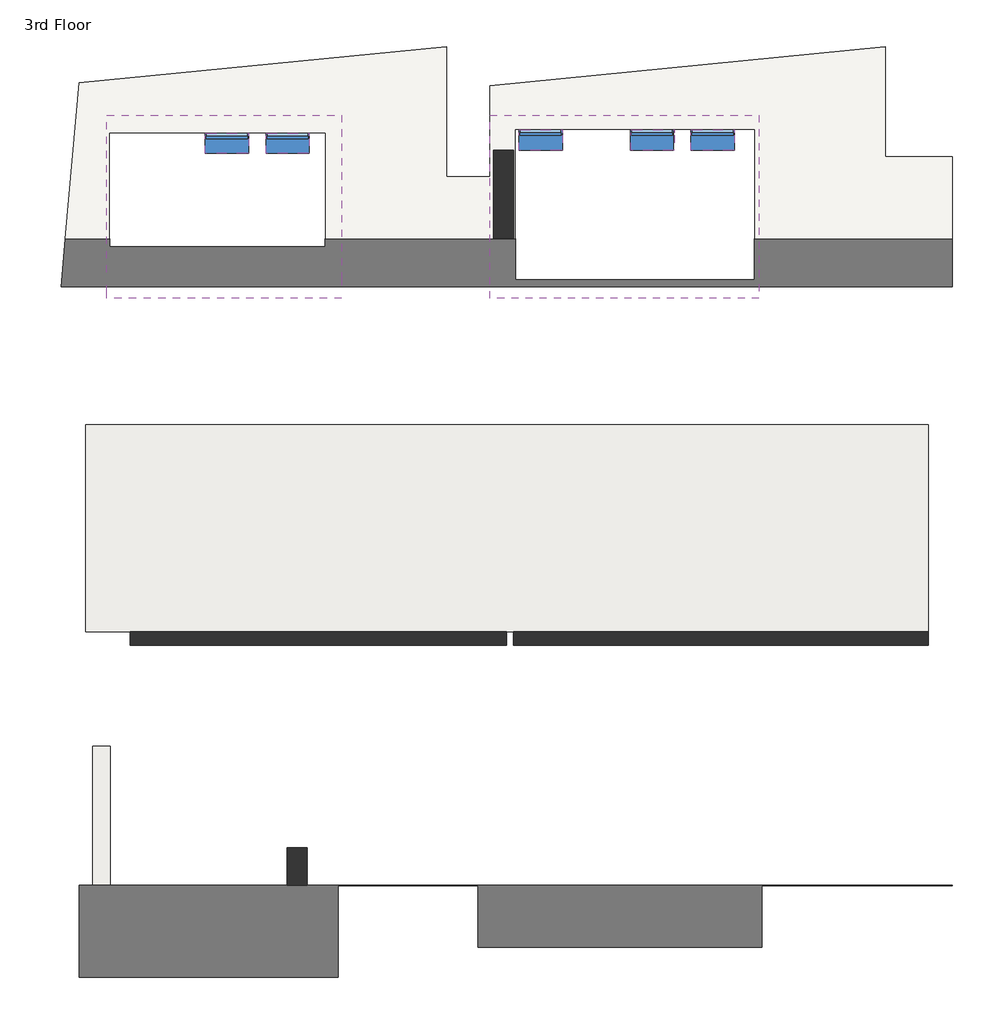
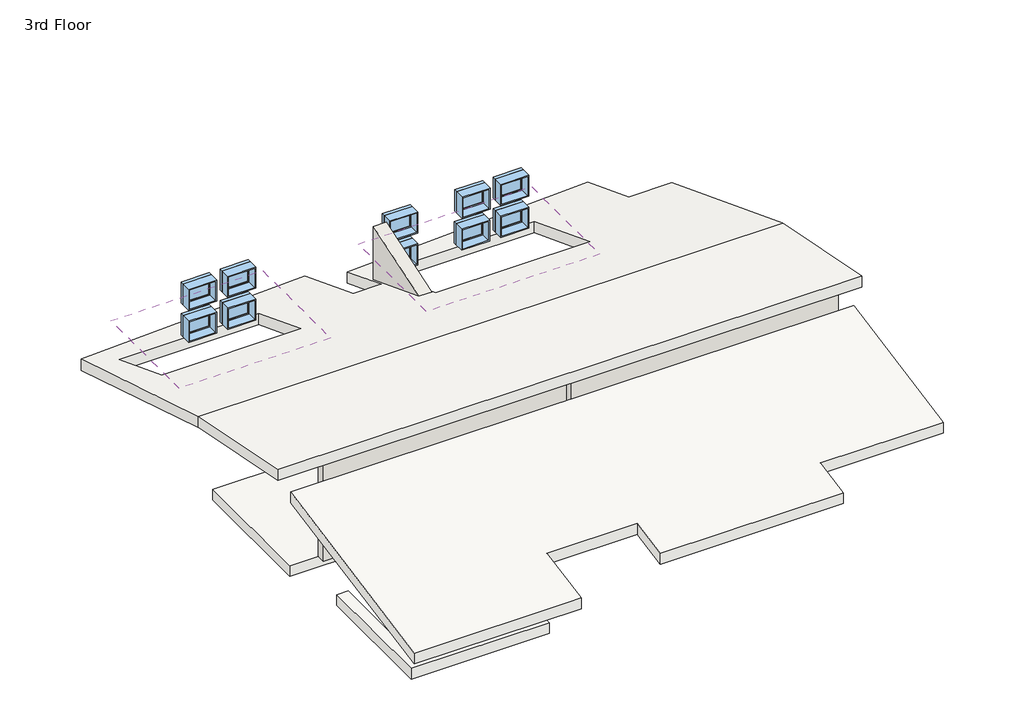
# One storey: 10 windows, 5 roofs, 5 walls, 1 slab.
"""IFC4 building model written with IfcOpenShell, lengths in millimetres."""

from ifc_helpers import new_model, si_unit, frame, origin, place, context, project, spatial, polyline, outline, extrude, faceted_brep, transform, mapped, element, save
from components import condo_apartment_window5_condo_apartment_window5_5cb7fe43

model = new_model("IFC4")

# Units and contexts
model_context = context("Model", 3, world=origin())
ifc_project = project(units=[si_unit("LENGTHUNIT", "METRE", prefix="MILLI")], contexts=[model_context])

# Site, building, storey
site = spatial("IfcSite", under=ifc_project)
building = spatial("IfcBuilding", under=site)
storey = spatial("IfcBuildingStorey", under=building, Name="3rd Floor", Elevation=6705.6)

# Roofs
placement = place(None, origin())
element("IfcRoof", 1, ObjectType="Generic - 12\"", at=placement, inside=storey, context=model_context, shape_type="Brep", body=[
    faceted_brep([(-11348.7872339, 50037.586508, 9015.8705839), (-11348.7872339, 44212.636508, 7907.3173322), (-6808.9497339, 44212.636509, 7907.3173324), (-6808.9497339, 45819.6505538, 8213.1501112), (-4349.8976449, 45819.6505538, 8213.1501112), (-4349.8976449, 44740.836508, 8007.8397105), (628.6252661, 44740.836508, 8007.8397105), (628.6252661, 45819.6505538, 8213.1501112), (3972.5234997, 45819.6505538, 8213.1501112), (3972.5234997, 50037.586508, 9015.8705839), (-11348.7872339, 50037.586508, 8705.6), (3972.5234997, 50037.586508, 8705.6), (3972.5234997, 45819.6505538, 7902.8795273), (628.6252661, 45819.6505538, 7902.8795273), (628.6252661, 44740.836508, 7697.5691266), (-4349.8976449, 44740.836508, 7697.5691266), (-4349.8976449, 45819.6505538, 7902.8795273), (-6808.9497339, 45819.6505538, 7902.8795273), (-6808.9497339, 44212.636509, 7597.0467485), (-11348.7872339, 44212.636508, 7597.0467483)], [[[0, 1, 2, 3, 4, 5, 6, 7, 8, 9]], [[10, 11, 12, 13, 14, 15, 16, 17, 18, 19]], [[1, 0, 10, 19]], [[2, 1, 19, 18]], [[3, 2, 18, 17]], [[4, 3, 17, 16]], [[5, 4, 16, 15]], [[6, 5, 15, 14]], [[7, 6, 14, 13]], [[8, 7, 13, 12]], [[9, 8, 12, 11]], [[0, 9, 11, 10]]]),
])
element("IfcRoof", 2, ObjectType="Generic - 12\"", at=placement, inside=storey, context=model_context, shape_type="SweptSolid", body=[
    extrude(outline(polyline([(-10807.9247339, 48264.349008), (-10807.9247339, 45074.274008), (-7355.0497339, 45074.274008), (-7355.0497339, 44758.736508), (-11113.8372339, 44758.736508), (-11113.8372339, 48264.349008), (-10807.9247339, 48264.349008)])), frame((0.0, 0.0, 6748.0), z_axis=(0.0, 0.0, 1.0), x_axis=(1.0, 0.0, 0.0)), (0.0, 0.0, 1.0), 304.8),
])
element("IfcRoof", 3, ObjectType="Generic - 12\"", at=placement, inside=storey, context=model_context, shape_type="Brep", body=[
    faceted_brep([(-11921.8898958, 49646.8051195, 10101.1644135), (-11921.8898958, 53384.686508, 9363.368557), (-11921.8898958, 53384.686508, 9036.7623773), (-11921.8898958, 53299.7913201, 9069.4446552), (-11921.8898958, 49646.8051195, 9790.4836082), (3969.3484997, 53384.686508, 9363.368557), (3969.3484997, 49646.8051195, 10101.1644135), (3969.3484997, 49646.8051195, 9790.4836082), (3969.3484997, 53299.7913201, 9069.4446552), (3969.3484997, 58606.5718801, 7026.4822544), (3969.3484997, 58606.5718801, 7353.088434), (2799.7762807, 58606.5718801, 7353.088434), (2799.7762807, 60538.2535461, 6609.4449068), (-4141.7786158, 59847.8098471, 6875.2464603), (-4141.7786158, 58252.2535461, 7489.4911034), (-4903.7786158, 58252.2535461, 7489.4911034), (-4903.7786158, 60538.2535461, 6609.4449068), (-11351.7536158, 59901.374008, 6854.6257534), (-10815.4872339, 59018.349008, 7194.5657327), (-7033.8372339, 59018.349008, 7194.5657327), (-7033.8372339, 57026.411508, 7961.4060743), (-10815.4872339, 57026.411508, 7961.4060743), (-3695.1872339, 59075.874008, 7172.4202133), (496.0752661, 59075.874008, 7172.4202133), (496.0752661, 56451.736508, 8182.6399098), (-3695.1872339, 56451.736508, 8182.6399098), (-11351.7536158, 59901.374008, 6528.0195737), (-4903.7786158, 60538.2535461, 6282.8387271), (-4903.7786158, 58252.2535461, 7162.8849238), (-4141.7786158, 58252.2535461, 7162.8849238), (-4141.7786158, 59847.8098471, 6548.6402806), (2799.7762807, 60538.2535461, 6282.8387271), (2799.7762807, 58606.5718801, 7026.4822544), (-7033.8372339, 59018.349008, 6867.959553), (-10815.4872339, 59018.349008, 6867.959553), (-10815.4872339, 57026.411508, 7634.7998946), (-7033.8372339, 57026.411508, 7634.7998946), (496.0752661, 59075.874008, 6845.8140336), (-3695.1872339, 59075.874008, 6845.8140336), (-3695.1872339, 56451.736508, 7856.0337302), (496.0752661, 56451.736508, 7856.0337302)], [[[0, 1, 2, 3, 4]], [[5, 6, 7, 8, 9, 10]], [[1, 0, 6, 5]], [[1, 5, 10, 11, 12, 13, 14, 15, 16, 17], [18, 19, 20, 21], [22, 23, 24, 25]], [[8, 3, 2, 26, 27, 28, 29, 30, 31, 32, 9], [33, 34, 35, 36], [37, 38, 39, 40]], [[4, 3, 8, 7]], [[0, 4, 7, 6]], [[26, 17, 16, 27]], [[27, 16, 15, 28]], [[28, 15, 14, 29]], [[29, 14, 13, 30]], [[30, 13, 12, 31]], [[31, 12, 11, 32]], [[32, 11, 10, 9]], [[17, 26, 2, 1]], [[33, 19, 18, 34]], [[34, 18, 21, 35]], [[35, 21, 20, 36]], [[19, 33, 36, 20]], [[37, 23, 22, 38]], [[38, 22, 25, 39]], [[39, 25, 24, 40]], [[23, 37, 40, 24]]]),
])
element("IfcRoof", 4, ObjectType="Generic - 12\"", at=placement, inside=storey, context=model_context, shape_type="SweptSolid", body=[
    extrude(outline(polyline([(56126.1033308, 8307.9995944), (59335.3385113, 9363.2548803), (59335.3385113, 9042.4), (56126.1033308, 7987.1447141), (56126.1033308, 8307.9995944)])), frame((-4138.6036158, 0.0, 0.0), z_axis=(1.0, 0.0, 0.0), x_axis=(0.0, 1.0, 0.0)), (0.0, 0.0, 1.0), 4715.641382),
])
element("IfcRoof", 5, ObjectType="Generic - 12\"", at=placement, inside=storey, context=model_context, shape_type="SweptSolid", body=[
    extrude(outline(polyline([(56126.1033308, 8307.9995944), (59335.3385113, 9363.2548803), (59335.3385113, 9042.4), (56575.6118713, 8134.9513524), (56126.1033308, 8307.9995944)])), frame((-10864.6997339, 0.0, 0.0), z_axis=(1.0, 0.0, 0.0), x_axis=(0.0, 1.0, 0.0)), (0.0, 0.0, 1.0), 4124.183618),
])

# Slab
element("IfcSlab", 6, ObjectType="Generic - 12\"", at=placement, inside=storey, context=model_context, shape_type="SweptSolid", body=[
    extrude(outline(polyline([(-11231.3122339, 50278.886508), (-11231.3122339, 53901.561508), (3547.3980231, 53901.561508), (3547.3980231, 50278.886508), (-11231.3122339, 50278.886508)])), frame((0.0, 0.0, 6400.8), z_axis=(0.0, 0.0, 1.0), x_axis=(1.0, 0.0, 0.0)), (0.0, 0.0, 1.0), 304.8),
])

# Walls
element("IfcWall", 7, ObjectType="Exterior - Brick", at=placement, inside=storey, context=model_context, shape_type="Brep", body=[
    faceted_brep([(-10809.4747339, 45069.886508, 6705.6), (-7355.0497339, 45069.886508, 6705.6), (-7355.0497339, 45069.886508, 7760.1910285), (-10809.4747339, 45069.886508, 7760.1910285), (-10457.0497339, 45422.311508, 6705.6), (-10457.0497339, 45422.311508, 7827.2614548), (-7704.2997339, 45422.311508, 7827.2614548), (-7355.0497339, 45422.311508, 7827.2614548), (-7355.0497339, 45422.311508, 6705.6), (-7704.2997339, 45422.311508, 6705.6)], [[[0, 1, 2, 3]], [[4, 5, 6, 7, 8, 9]], [[1, 0, 4, 9, 8]], [[0, 3, 5, 4]], [[2, 1, 8, 7]], [[3, 2, 7, 6, 5]]]),
])
element("IfcWall", 8, ObjectType="Exterior - Brick", at=placement, inside=storey, context=model_context, shape_type="SweptSolid", body=[
    extrude(outline(polyline([(58723.449008, 7308.0940019), (56575.6118713, 8134.9513524), (58723.449008, 8841.1995281), (58723.449008, 7308.0940019)])), frame((-4079.3622339, 0.0, 0.0), z_axis=(1.0, 0.0, 0.0), x_axis=(0.0, 1.0, 0.0)), (0.0, 0.0, 1.0), 352.425),
])
element("IfcWall", 9, ObjectType="Exterior - Brick", at=placement, inside=storey, context=model_context, shape_type="Brep", body=[
    faceted_brep([(-7351.8747339, 45422.311508, 6705.6), (-7351.8747339, 46490.699008, 6705.6), (-7351.8747339, 46490.699008, 8030.587567), (-7351.8747339, 45422.311508, 7827.2614548), (-7704.2997339, 45422.311508, 6705.6), (-7704.2997339, 45422.311508, 7827.2614548), (-7704.2997339, 46490.699008, 8030.587567), (-7704.2997339, 46490.699008, 6705.6), (-7355.0497339, 45422.311508, 6705.6), (-7355.0497339, 45422.311508, 7827.2614548)], [[[0, 1, 2, 3]], [[4, 5, 6, 7]], [[1, 0, 8, 4, 7]], [[2, 1, 7, 6]], [[0, 3, 9, 5, 4, 8]], [[3, 2, 6, 5, 9]]]),
])
element("IfcWall", 10, ObjectType="Exterior - Stucco", at=placement, inside=storey, context=model_context, shape_type="Brep", body=[
    faceted_brep([(-10457.0497339, 50037.586508, 6705.6), (-3850.7622339, 50037.586508, 6705.6), (-3850.7622339, 50037.586508, 8705.6), (-3850.7622339, 50037.586508, 9713.3498366), (-10457.0497339, 50037.586508, 9713.3498366), (-10457.0497339, 50278.886508, 6705.6), (-10457.0497339, 50278.886508, 9665.7212145), (-3850.7622339, 50278.886508, 9665.7212145), (-3850.7622339, 50278.886508, 6705.6), (-10457.0497339, 50155.061508, 6705.6)], [[[0, 1, 2, 3, 4]], [[5, 6, 7, 8]], [[1, 0, 9, 5, 8]], [[0, 4, 6, 5, 9]], [[3, 2, 1, 8, 7]], [[4, 3, 7, 6]]]),
])
element("IfcWall", 11, ObjectType="Exterior - Stucco", at=placement, inside=storey, context=model_context, shape_type="Brep", body=[
    faceted_brep([(-3726.9372339, 50037.586508, 6705.6), (3547.3980231, 50037.586508, 6705.6), (3547.3980231, 50037.586508, 8705.6), (3547.3980231, 50037.586508, 9713.3498366), (-3726.9372339, 50037.586508, 9713.3498366), (-3726.9372339, 50037.586508, 8705.6), (-3726.9372339, 50278.886508, 6705.6), (-3726.9372339, 50278.886508, 9665.7212145), (3547.3980231, 50278.886508, 9665.7212145), (3547.3980231, 50278.886508, 6705.6)], [[[0, 1, 2, 3, 4, 5]], [[6, 7, 8, 9]], [[1, 0, 6, 9]], [[0, 5, 4, 7, 6]], [[3, 2, 1, 9, 8]], [[4, 3, 8, 7]]]),
])

# Windows
condo_apartment_window5_condo_apartment_window5_shape = condo_apartment_window5_condo_apartment_window5_5cb7fe43(model_context)
element("IfcWindow", 12, ObjectType="Condo - Apartment Window5 : Condo - Apartment Window5", at=placement, inside=storey, context=model_context, shape_type="MappedRepresentation", body=[
    mapped(condo_apartment_window5_condo_apartment_window5_shape, transform((-7653.9997339, 58842.136508, 5803.9), x_axis=(1.0, 0.0, 0.0), y_axis=(0.0, 1.0, 0.0), z_axis=(0.0, 0.0, 1.0))),
])
element("IfcWindow", 13, ObjectType="Condo - Apartment Window5 : Condo - Apartment Window5", at=placement, inside=storey, context=model_context, shape_type="MappedRepresentation", body=[
    mapped(condo_apartment_window5_condo_apartment_window5_shape, transform((-8720.7997339, 58842.136508, 5803.9), x_axis=(1.0, 0.0, 0.0), y_axis=(0.0, 1.0, 0.0), z_axis=(0.0, 0.0, 1.0))),
])
element("IfcWindow", 14, ObjectType="Condo - Apartment Window5 : Condo - Apartment Window5", at=placement, inside=storey, context=model_context, shape_type="MappedRepresentation", body=[
    mapped(condo_apartment_window5_condo_apartment_window5_shape, transform((-7653.9997339, 58842.136508, 6718.3), x_axis=(1.0, 0.0, 0.0), y_axis=(0.0, 1.0, 0.0), z_axis=(0.0, 0.0, 1.0))),
])
element("IfcWindow", 15, ObjectType="Condo - Apartment Window5 : Condo - Apartment Window5", at=placement, inside=storey, context=model_context, shape_type="MappedRepresentation", body=[
    mapped(condo_apartment_window5_condo_apartment_window5_shape, transform((-8720.7997339, 58842.136508, 6718.3), x_axis=(1.0, 0.0, 0.0), y_axis=(0.0, 1.0, 0.0), z_axis=(0.0, 0.0, 1.0))),
])
element("IfcWindow", 16, ObjectType="Condo - Apartment Window5 : Condo - Apartment Window5", at=placement, inside=storey, context=model_context, shape_type="MappedRepresentation", body=[
    mapped(condo_apartment_window5_condo_apartment_window5_shape, transform((-1261.6622339, 58899.661508, 5803.9), x_axis=(1.0, 0.0, 0.0), y_axis=(0.0, 1.0, 0.0), z_axis=(0.0, 0.0, 1.0))),
])
element("IfcWindow", 17, ObjectType="Condo - Apartment Window5 : Condo - Apartment Window5", at=placement, inside=storey, context=model_context, shape_type="MappedRepresentation", body=[
    mapped(condo_apartment_window5_condo_apartment_window5_shape, transform((-194.8622339, 58899.661508, 6718.3), x_axis=(1.0, 0.0, 0.0), y_axis=(0.0, 1.0, 0.0), z_axis=(0.0, 0.0, 1.0))),
])
element("IfcWindow", 18, ObjectType="Condo - Apartment Window5 : Condo - Apartment Window5", at=placement, inside=storey, context=model_context, shape_type="MappedRepresentation", body=[
    mapped(condo_apartment_window5_condo_apartment_window5_shape, transform((-3215.4622339, 58899.661508, 6718.3), x_axis=(1.0, 0.0, 0.0), y_axis=(0.0, 1.0, 0.0), z_axis=(0.0, 0.0, 1.0))),
])
element("IfcWindow", 19, ObjectType="Condo - Apartment Window5 : Condo - Apartment Window5", at=placement, inside=storey, context=model_context, shape_type="MappedRepresentation", body=[
    mapped(condo_apartment_window5_condo_apartment_window5_shape, transform((-3215.4622339, 58899.661508, 5803.9), x_axis=(1.0, 0.0, 0.0), y_axis=(0.0, 1.0, 0.0), z_axis=(0.0, 0.0, 1.0))),
])
element("IfcWindow", 20, ObjectType="Condo - Apartment Window5 : Condo - Apartment Window5", at=placement, inside=storey, context=model_context, shape_type="MappedRepresentation", body=[
    mapped(condo_apartment_window5_condo_apartment_window5_shape, transform((-194.8622339, 58899.661508, 5803.9), x_axis=(1.0, 0.0, 0.0), y_axis=(0.0, 1.0, 0.0), z_axis=(0.0, 0.0, 1.0))),
])
element("IfcWindow", 21, ObjectType="Condo - Apartment Window5 : Condo - Apartment Window5", at=placement, inside=storey, context=model_context, shape_type="MappedRepresentation", body=[
    mapped(condo_apartment_window5_condo_apartment_window5_shape, transform((-1247.2622339, 58899.661508, 6718.3), x_axis=(1.0, 0.0, 0.0), y_axis=(0.0, 1.0, 0.0), z_axis=(0.0, 0.0, 1.0))),
])

save(model, "model.ifc")
